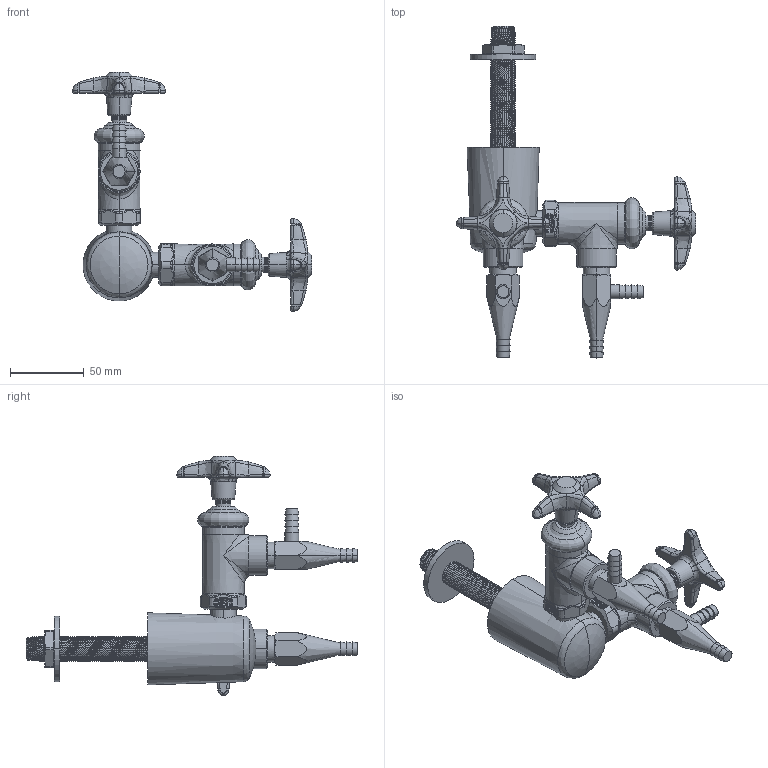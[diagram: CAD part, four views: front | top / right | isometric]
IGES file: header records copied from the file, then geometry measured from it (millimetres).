
Start section:  PTC IGES file: LWV2-C33-20.igs
Global section: file name: LWV2-C33-20.igs; native system: Creo Parametric by PTC Inc.; preprocessor: 2014500; author: usch_engrender; organization: Unknown; date: 20151113.124144; units: inch
Bounding box: 162.47 x 225.55 x 162.47 mm (x, y, z)
Volume: 315486.4 mm3; surface area: 58523.1 mm2
Topology: 1 solids, 4 shells, 1016 faces, 2396 edges, 1425 vertices
Faces by surface type: bspline 552, revolution 464
